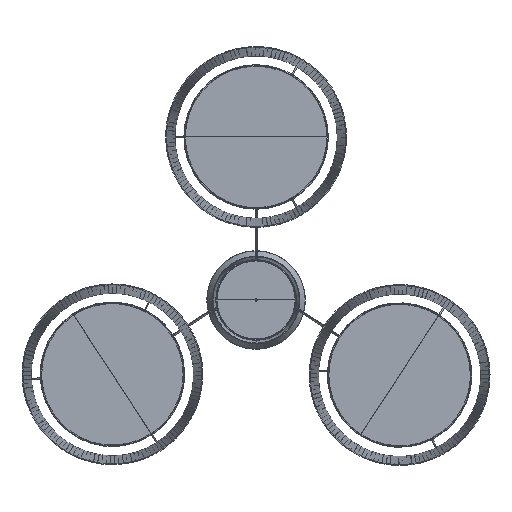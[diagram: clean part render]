
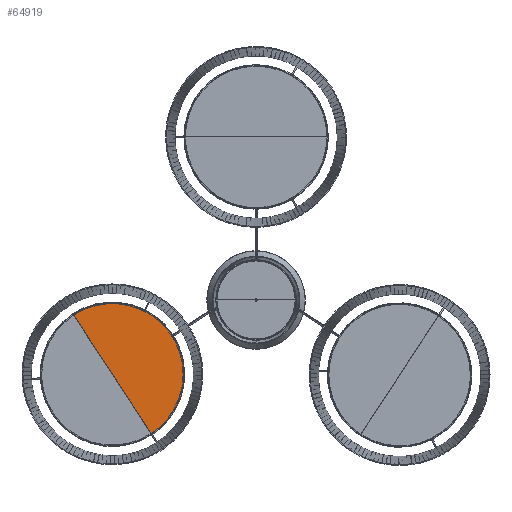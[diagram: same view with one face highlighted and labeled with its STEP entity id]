
A CAD part, top view. The second image highlights one B-rep face of the part: STEP entity #64919.
In plain terms, the highlighted planar face has unit normal (0, 0, 1) as drawn and (0, 0, -1) by its records, which use the part's own axes.
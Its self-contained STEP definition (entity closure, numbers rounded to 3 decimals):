
#4999=PLANE('',#69842);
#8876=FACE_OUTER_BOUND('',#12841,.T.);
#12841=EDGE_LOOP('',(#60645,#60646));
#20565=LINE('',#112857,#28279);
#28279=VECTOR('',#86480,304.8);
#28865=CIRCLE('',#69836,198.182);
#34555=VERTEX_POINT('',#112843);
#34557=VERTEX_POINT('',#112847);
#43251=EDGE_CURVE('',#34555,#34557,#28865,.T.);
#43255=EDGE_CURVE('',#34555,#34557,#20565,.T.);
#60645=ORIENTED_EDGE('',*,*,#43255,.F.);
#60646=ORIENTED_EDGE('',*,*,#43251,.T.);
#64919=ADVANCED_FACE('',(#8876),#4999,.F.);
#69836=AXIS2_PLACEMENT_3D('',#112849,#86465,#86466);
#69842=AXIS2_PLACEMENT_3D('',#112856,#86478,#86479);
#86465=DIRECTION('center_axis',(0.,0.,-1.));
#86466=DIRECTION('ref_axis',(1.,0.,0.));
#86478=DIRECTION('center_axis',(0.,0.,1.));
#86479=DIRECTION('ref_axis',(0.937,-0.35,0.));
#86480=DIRECTION('',(-0.937,0.35,0.));
#112843=CARTESIAN_POINT('',(300.85,364.76,326.244));
#112847=CARTESIAN_POINT('',(-70.414,503.57,326.244));
#112849=CARTESIAN_POINT('Origin',(115.218,434.165,326.244));
#112856=CARTESIAN_POINT('Origin',(115.218,434.165,326.244));
#112857=CARTESIAN_POINT('',(300.85,364.76,326.244));
